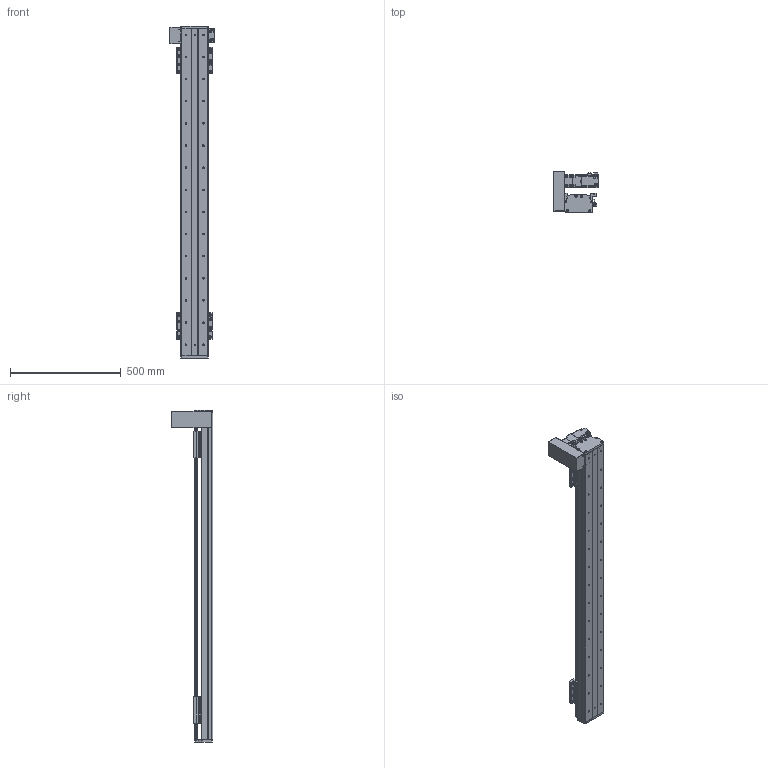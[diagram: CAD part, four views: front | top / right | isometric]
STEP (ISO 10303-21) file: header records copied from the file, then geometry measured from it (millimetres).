
FILE_DESCRIPTION(/* description */ (''),/* implementation_level */ '2;1');
FILE_NAME(/* name */ 'C:\Users\PC\Desktop\3D도면\STEP\DSB125-UL2G-W1200-R.stp',/* time_stamp */ '2018-06-19T00:43:45-07:00',/* author */ ('PC'),/* organization */ (''),/* preprocessor_version */ 'ST-DEVELOPER v16.5',/* originating_system */ 'Autodesk Inventor 2017',/* authorisation */ '');
FILE_SCHEMA (('AUTOMOTIVE_DESIGN { 1 0 10303 214 3 1 1 }'));
Length unit declared in the file: millimetre
Products named in the file (12): DSB125-L-300ST; DSR125-BASE(S-TYPE); DSR125-UP COVER-R01(170203); DSR125-REAR COVER-R01(170203); DSR125-REAR COVER-R01(170203)_1; hg-kr23_; ab0601-p0401200402; 13-BELT COVER; DSR126-SENSOR DOG; SENSOR BRACKET(EE-SX674A); pm-y65_step; DSR125-TABLE(MSA15X)
Assembly tree (16 placements, depth 2):
  DSB125-L-300ST
    DSR125-BASE(S-TYPE)
    DSR125-UP COVER-R01(170203)
    DSR125-REAR COVER-R01(170203)
    DSR125-REAR COVER-R01(170203)_1
    hg-kr23_
    ab0601-p0401200402
    13-BELT COVER
    DSR126-SENSOR DOG
    SENSOR BRACKET(EE-SX674A)  x3
    pm-y65_step  x3
    DSR125-TABLE(MSA15X)  x2
Bounding box: 202.1 x 187 x 1500 mm (x, y, z)
Volume: 5380499 mm3; surface area: 1549538 mm2
Topology: 17 solids, 22 shells, 1681 faces, 4551 edges, 3000 vertices
Faces by surface type: plane 908, cylinder 641, cone 120, sphere 8, torus 4
Full cylindrical faces by diameter (mm): 2.459 x20, 3.242 x16, 3.5 x6, 4 x1, 4.134 x16, 4.2 x4, 4.3 x1, 4.5 x50, 4.917 x20, 5 x27, 5.3 x1, 5.5 x4, 5.6 x8, 5.8 x4, 5.9 x8, 6 x4, 6.6 x22, 6.647 x30, 7.5 x32, 8.5 x8, 8.7 x1, 11 x22, 14 x1, 16 x2, 17 x1, 20 x1, 47 x1, 50 x3
Entity records: 35750 total; most frequent: CARTESIAN_POINT 6559, DIRECTION 6204, ORIENTED_EDGE 5518, EDGE_CURVE 2764, AXIS2_PLACEMENT_3D 2290, VERTEX_POINT 1973, EDGE_LOOP 1713, LINE 1624
